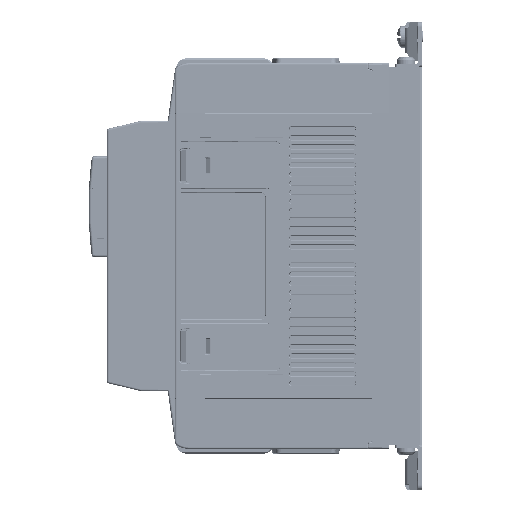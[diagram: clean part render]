
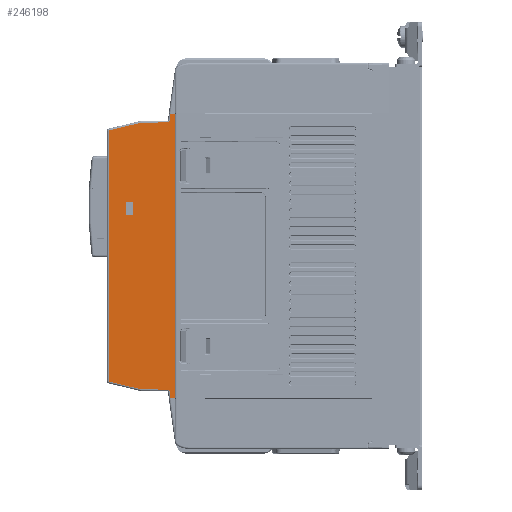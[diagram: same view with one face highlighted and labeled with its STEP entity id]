
A CAD part, front view. The second image highlights one B-rep face of the part: STEP entity #246198.
In plain terms, the highlighted planar face has unit normal (-0.009, -1, 0).
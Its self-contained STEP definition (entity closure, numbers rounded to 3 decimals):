
#245612=CARTESIAN_POINT('',(-81.129,-26.108,-55.296));
#245613=VERTEX_POINT('',#245612);
#245614=CARTESIAN_POINT('',(-66.956,-26.232,-58.698));
#245615=VERTEX_POINT('',#245614);
#245616=CARTESIAN_POINT('',(-81.129,-26.108,-55.296));
#245617=DIRECTION('',(0.972,-0.008,-0.233));
#245618=VECTOR('',#245617,14.576);
#245619=LINE('',#245616,#245618);
#245620=EDGE_CURVE('',#245613,#245615,#245619,.T.);
#245767=CARTESIAN_POINT('',(-81.282,-26.107,-55.101));
#245768=VERTEX_POINT('',#245767);
#245769=CARTESIAN_POINT('',(-81.082,-26.109,-55.101));
#245770=DIRECTION('',(-0.009,-1.,0.));
#245771=DIRECTION('',(-1.,0.009,0.));
#245772=AXIS2_PLACEMENT_3D('',#245769,#245770,#245771);
#245773=ELLIPSE('',#245772,0.2,0.2);
#245774=EDGE_CURVE('',#245768,#245613,#245773,.T.);
#246022=CARTESIAN_POINT('',(-52.25,-26.36,0.));
#246023=DIRECTION('',(0.009,1.,0.));
#246024=DIRECTION('',(0.0,0.0,1.0));
#246025=AXIS2_PLACEMENT_3D('',#246022,#246023,#246024);
#246026=PLANE('',#246025);
#246027=CARTESIAN_POINT('',(-81.129,-26.108,55.296));
#246028=VERTEX_POINT('',#246027);
#246029=CARTESIAN_POINT('',(-66.956,-26.232,58.698));
#246030=VERTEX_POINT('',#246029);
#246031=CARTESIAN_POINT('',(-81.129,-26.108,55.296));
#246032=DIRECTION('',(0.972,-0.008,0.233));
#246033=VECTOR('',#246032,14.576);
#246034=LINE('',#246031,#246033);
#246035=EDGE_CURVE('',#246028,#246030,#246034,.T.);
#246036=ORIENTED_EDGE('',*,*,#246035,.F.);
#246037=CARTESIAN_POINT('',(-81.282,-26.107,55.101));
#246038=VERTEX_POINT('',#246037);
#246039=CARTESIAN_POINT('',(-81.082,-26.109,55.101));
#246040=DIRECTION('',(0.009,1.,0.));
#246041=DIRECTION('',(-1.,0.009,0.));
#246042=AXIS2_PLACEMENT_3D('',#246039,#246040,#246041);
#246043=ELLIPSE('',#246042,0.2,0.2);
#246044=EDGE_CURVE('',#246038,#246028,#246043,.T.);
#246045=ORIENTED_EDGE('',*,*,#246044,.F.);
#246046=CARTESIAN_POINT('',(-81.282,-26.107,55.101));
#246047=DIRECTION('',(0.0,0.0,-1.0));
#246048=VECTOR('',#246047,110.202);
#246049=LINE('',#246046,#246048);
#246050=EDGE_CURVE('',#246038,#245768,#246049,.T.);
#246051=ORIENTED_EDGE('',*,*,#246050,.T.);
#246052=ORIENTED_EDGE('',*,*,#245774,.T.);
#246053=ORIENTED_EDGE('',*,*,#245620,.T.);
#246054=CARTESIAN_POINT('',(-55.532,-26.332,-58.798));
#246055=VERTEX_POINT('',#246054);
#246056=CARTESIAN_POINT('',(-66.956,-26.232,-58.698));
#246057=DIRECTION('',(1.,-0.009,-0.009));
#246058=VECTOR('',#246057,11.425);
#246059=LINE('',#246056,#246058);
#246060=EDGE_CURVE('',#245615,#246055,#246059,.T.);
#246061=ORIENTED_EDGE('',*,*,#246060,.T.);
#246062=CARTESIAN_POINT('',(-54.452,-26.341,-59.747));
#246063=VERTEX_POINT('',#246062);
#246064=CARTESIAN_POINT('',(-55.542,-26.332,-59.898));
#246065=DIRECTION('',(0.009,1.,0.));
#246066=DIRECTION('',(1.,-0.009,0.));
#246067=AXIS2_PLACEMENT_3D('',#246064,#246065,#246066);
#246068=ELLIPSE('',#246067,1.1,1.1);
#246069=EDGE_CURVE('',#246055,#246063,#246068,.T.);
#246070=ORIENTED_EDGE('',*,*,#246069,.T.);
#246071=CARTESIAN_POINT('',(-54.056,-26.345,-62.604));
#246072=VERTEX_POINT('',#246071);
#246073=CARTESIAN_POINT('',(-54.452,-26.341,-59.747));
#246074=DIRECTION('',(0.137,-0.001,-0.991));
#246075=VECTOR('',#246074,2.885);
#246076=LINE('',#246073,#246075);
#246077=EDGE_CURVE('',#246063,#246072,#246076,.T.);
#246078=ORIENTED_EDGE('',*,*,#246077,.T.);
#246079=CARTESIAN_POINT('',(-52.25,-26.36,-62.62));
#246080=VERTEX_POINT('',#246079);
#246081=CARTESIAN_POINT('',(-54.056,-26.345,-62.604));
#246082=DIRECTION('',(1.,-0.009,-0.009));
#246083=VECTOR('',#246082,1.806);
#246084=LINE('',#246081,#246083);
#246085=EDGE_CURVE('',#246080,#246072,#246084,.F.);
#246086=ORIENTED_EDGE('',*,*,#246085,.F.);
#246087=CARTESIAN_POINT('',(-52.25,-26.36,62.62));
#246088=VERTEX_POINT('',#246087);
#246089=CARTESIAN_POINT('',(-52.25,-26.36,62.62));
#246090=DIRECTION('',(0.0,0.0,-1.0));
#246091=VECTOR('',#246090,125.239);
#246092=LINE('',#246089,#246091);
#246093=EDGE_CURVE('',#246088,#246080,#246092,.T.);
#246094=ORIENTED_EDGE('',*,*,#246093,.F.);
#246095=CARTESIAN_POINT('',(-54.056,-26.345,62.604));
#246096=VERTEX_POINT('',#246095);
#246097=CARTESIAN_POINT('',(-54.056,-26.345,62.604));
#246098=DIRECTION('',(1.,-0.009,0.009));
#246099=VECTOR('',#246098,1.806);
#246100=LINE('',#246097,#246099);
#246101=EDGE_CURVE('',#246088,#246096,#246100,.F.);
#246102=ORIENTED_EDGE('',*,*,#246101,.T.);
#246103=CARTESIAN_POINT('',(-54.452,-26.341,59.747));
#246104=VERTEX_POINT('',#246103);
#246105=CARTESIAN_POINT('',(-54.452,-26.341,59.747));
#246106=DIRECTION('',(0.137,-0.001,0.991));
#246107=VECTOR('',#246106,2.885);
#246108=LINE('',#246105,#246107);
#246109=EDGE_CURVE('',#246104,#246096,#246108,.T.);
#246110=ORIENTED_EDGE('',*,*,#246109,.F.);
#246111=CARTESIAN_POINT('',(-55.532,-26.332,58.798));
#246112=VERTEX_POINT('',#246111);
#246113=CARTESIAN_POINT('',(-55.542,-26.332,59.898));
#246114=DIRECTION('',(-0.009,-1.,0.));
#246115=DIRECTION('',(1.,-0.009,0.));
#246116=AXIS2_PLACEMENT_3D('',#246113,#246114,#246115);
#246117=ELLIPSE('',#246116,1.1,1.1);
#246118=EDGE_CURVE('',#246112,#246104,#246117,.T.);
#246119=ORIENTED_EDGE('',*,*,#246118,.F.);
#246120=CARTESIAN_POINT('',(-66.956,-26.232,58.698));
#246121=DIRECTION('',(1.,-0.009,0.009));
#246122=VECTOR('',#246121,11.425);
#246123=LINE('',#246120,#246122);
#246124=EDGE_CURVE('',#246030,#246112,#246123,.T.);
#246125=ORIENTED_EDGE('',*,*,#246124,.F.);
#246126=EDGE_LOOP('',(#246036,#246045,#246051,#246052,#246053,#246061,#246070,#246078,#246086,#246094,#246102,#246110,#246119,#246125));
#246127=FACE_OUTER_BOUND('',#246126,.T.);
#246128=CARTESIAN_POINT('',(-70.63,-26.2,23.345));
#246129=VERTEX_POINT('',#246128);
#246130=CARTESIAN_POINT('',(-70.63,-26.2,18.455));
#246131=VERTEX_POINT('',#246130);
#246132=CARTESIAN_POINT('',(-70.63,-26.2,23.345));
#246133=DIRECTION('',(0.0,0.0,-1.0));
#246134=VECTOR('',#246133,4.89);
#246135=LINE('',#246132,#246134);
#246136=EDGE_CURVE('',#246129,#246131,#246135,.T.);
#246137=ORIENTED_EDGE('',*,*,#246136,.T.);
#246138=CARTESIAN_POINT('',(-71.13,-26.196,17.955));
#246139=VERTEX_POINT('',#246138);
#246140=CARTESIAN_POINT('',(-71.13,-26.196,18.455));
#246141=DIRECTION('',(-0.009,-1.,0.));
#246142=DIRECTION('',(0.832,-0.007,-0.555));
#246143=AXIS2_PLACEMENT_3D('',#246140,#246141,#246142);
#246144=ELLIPSE('',#246143,0.5,0.5);
#246145=EDGE_CURVE('',#246131,#246139,#246144,.F.);
#246146=ORIENTED_EDGE('',*,*,#246145,.T.);
#246147=CARTESIAN_POINT('',(-73.02,-26.179,17.955));
#246148=VERTEX_POINT('',#246147);
#246149=CARTESIAN_POINT('',(-71.13,-26.196,17.955));
#246150=DIRECTION('',(-1.,0.009,0.));
#246151=VECTOR('',#246150,1.89);
#246152=LINE('',#246149,#246151);
#246153=EDGE_CURVE('',#246139,#246148,#246152,.T.);
#246154=ORIENTED_EDGE('',*,*,#246153,.T.);
#246155=CARTESIAN_POINT('',(-73.52,-26.175,18.455));
#246156=VERTEX_POINT('',#246155);
#246157=CARTESIAN_POINT('',(-73.02,-26.179,18.455));
#246158=DIRECTION('',(-0.009,-1.,0.));
#246159=DIRECTION('',(-0.447,0.004,-0.894));
#246160=AXIS2_PLACEMENT_3D('',#246157,#246158,#246159);
#246161=ELLIPSE('',#246160,0.5,0.5);
#246162=EDGE_CURVE('',#246148,#246156,#246161,.F.);
#246163=ORIENTED_EDGE('',*,*,#246162,.T.);
#246164=CARTESIAN_POINT('',(-73.52,-26.175,23.345));
#246165=VERTEX_POINT('',#246164);
#246166=CARTESIAN_POINT('',(-73.52,-26.175,18.455));
#246167=DIRECTION('',(0.0,0.0,1.0));
#246168=VECTOR('',#246167,4.889);
#246169=LINE('',#246166,#246168);
#246170=EDGE_CURVE('',#246156,#246165,#246169,.T.);
#246171=ORIENTED_EDGE('',*,*,#246170,.T.);
#246172=CARTESIAN_POINT('',(-73.02,-26.179,23.845));
#246173=VERTEX_POINT('',#246172);
#246174=CARTESIAN_POINT('',(-73.02,-26.179,23.345));
#246175=DIRECTION('',(0.009,1.,0.));
#246176=DIRECTION('',(-0.447,0.004,0.894));
#246177=AXIS2_PLACEMENT_3D('',#246174,#246175,#246176);
#246178=ELLIPSE('',#246177,0.5,0.5);
#246179=EDGE_CURVE('',#246173,#246165,#246178,.F.);
#246180=ORIENTED_EDGE('',*,*,#246179,.F.);
#246181=CARTESIAN_POINT('',(-71.13,-26.196,23.845));
#246182=VERTEX_POINT('',#246181);
#246183=CARTESIAN_POINT('',(-71.13,-26.196,23.845));
#246184=DIRECTION('',(-1.,0.009,0.));
#246185=VECTOR('',#246184,1.89);
#246186=LINE('',#246183,#246185);
#246187=EDGE_CURVE('',#246182,#246173,#246186,.T.);
#246188=ORIENTED_EDGE('',*,*,#246187,.F.);
#246189=CARTESIAN_POINT('',(-71.13,-26.196,23.345));
#246190=DIRECTION('',(0.009,1.,0.));
#246191=DIRECTION('',(0.832,-0.007,0.555));
#246192=AXIS2_PLACEMENT_3D('',#246189,#246190,#246191);
#246193=ELLIPSE('',#246192,0.5,0.5);
#246194=EDGE_CURVE('',#246129,#246182,#246193,.F.);
#246195=ORIENTED_EDGE('',*,*,#246194,.F.);
#246196=EDGE_LOOP('',(#246137,#246146,#246154,#246163,#246171,#246180,#246188,#246195));
#246197=FACE_BOUND('',#246196,.T.);
#246198=ADVANCED_FACE('',(#246127,#246197),#246026,.F.);
